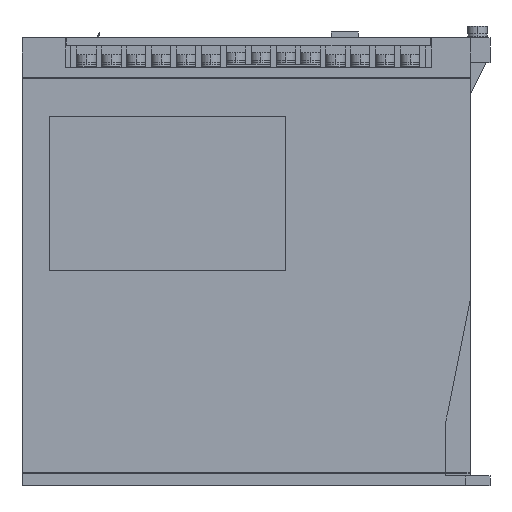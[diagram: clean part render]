
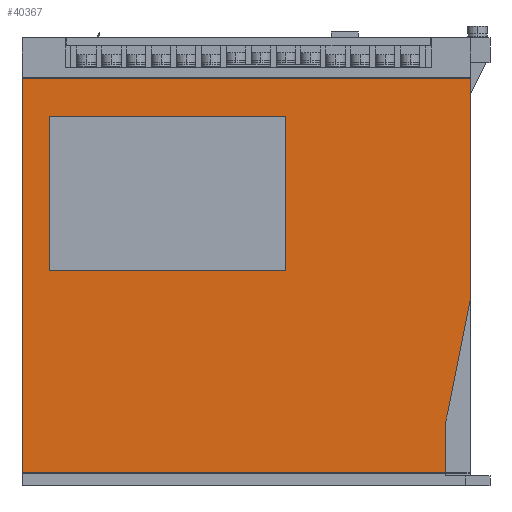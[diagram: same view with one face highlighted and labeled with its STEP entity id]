
A CAD part, left-side view. The second image highlights one B-rep face of the part: STEP entity #40367.
In plain terms, the highlighted planar face has unit normal (-1, 0, 0).
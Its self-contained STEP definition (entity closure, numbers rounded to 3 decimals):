
#7353 = CARTESIAN_POINT ( 'NONE',  ( -95., -175., 163.8 ) ) ;
#7354 = DIRECTION ( 'NONE',  ( 0., -1., 0. ) ) ;
#7355 = VECTOR ( 'NONE', #7354, 1000. ) ;
#7356 = CARTESIAN_POINT ( 'NONE',  ( -95., 5., 163.8 ) ) ;
#7357 = LINE ( 'NONE', #7356, #7355 ) ;
#7358 = CARTESIAN_POINT ( 'NONE',  ( -95., 5., 163.8 ) ) ;
#12354 = CARTESIAN_POINT ( 'NONE',  ( -95., -175., 74.4 ) ) ;
#12355 = DIRECTION ( 'NONE',  ( 0., 0., -1. ) ) ;
#12356 = VECTOR ( 'NONE', #12355, 1000. ) ;
#12357 = CARTESIAN_POINT ( 'NONE',  ( -95., -175., 369.913 ) ) ;
#12358 = LINE ( 'NONE', #12357, #12356 ) ;
#12392 = CARTESIAN_POINT ( 'NONE',  ( -95., 5., 369.913 ) ) ;
#12393 = AXIS2_PLACEMENT_3D ( 'NONE', #12392, #12455, #12454 ) ;
#12394 = PLANE ( 'NONE',  #12393 ) ;
#12395 = FACE_OUTER_BOUND ( 'NONE', #40352, .T. ) ;
#12396 = FACE_BOUND ( 'NONE', #40369, .T. ) ;
#12403 = DIRECTION ( 'NONE',  ( 0., -0.196, 0.981 ) ) ;
#12404 = VECTOR ( 'NONE', #12403, 1000. ) ;
#12405 = CARTESIAN_POINT ( 'NONE',  ( -95., -165., 24.4 ) ) ;
#12406 = LINE ( 'NONE', #12405, #12404 ) ;
#12407 = CARTESIAN_POINT ( 'NONE',  ( -95., -165., 24.4 ) ) ;
#12408 = DIRECTION ( 'NONE',  ( 0., 0., -1. ) ) ;
#12409 = VECTOR ( 'NONE', #12408, 1000. ) ;
#12410 = CARTESIAN_POINT ( 'NONE',  ( -95., -165., 24.4 ) ) ;
#12411 = LINE ( 'NONE', #12410, #12409 ) ;
#12412 = CARTESIAN_POINT ( 'NONE',  ( -95., -165., 5.2 ) ) ;
#12413 = CARTESIAN_POINT ( 'NONE',  ( -95., 5., 5.2 ) ) ;
#12414 = DIRECTION ( 'NONE',  ( 0., -1., 0. ) ) ;
#12415 = VECTOR ( 'NONE', #12414, 1000. ) ;
#12416 = CARTESIAN_POINT ( 'NONE',  ( -95., 5., 5.2 ) ) ;
#12417 = LINE ( 'NONE', #12416, #12415 ) ;
#12418 = DIRECTION ( 'NONE',  ( 0., 1., 0. ) ) ;
#12419 = VECTOR ( 'NONE', #12418, 1000. ) ;
#12420 = CARTESIAN_POINT ( 'NONE',  ( -95., -6., 148.5 ) ) ;
#12421 = LINE ( 'NONE', #12420, #12419 ) ;
#12438 = CARTESIAN_POINT ( 'NONE',  ( -95., -6., 148.5 ) ) ;
#12439 = DIRECTION ( 'NONE',  ( 0., 0., -1. ) ) ;
#12440 = VECTOR ( 'NONE', #12439, 1000. ) ;
#12441 = CARTESIAN_POINT ( 'NONE',  ( -95., -6., 86.5 ) ) ;
#12442 = LINE ( 'NONE', #12441, #12440 ) ;
#12443 = CARTESIAN_POINT ( 'NONE',  ( -95., -6., 86.5 ) ) ;
#12444 = DIRECTION ( 'NONE',  ( 0., -1., 0. ) ) ;
#12445 = VECTOR ( 'NONE', #12444, 1000. ) ;
#12446 = CARTESIAN_POINT ( 'NONE',  ( -95., -6., 86.5 ) ) ;
#12447 = LINE ( 'NONE', #12446, #12445 ) ;
#12448 = CARTESIAN_POINT ( 'NONE',  ( -95., -101., 148.5 ) ) ;
#12449 = CARTESIAN_POINT ( 'NONE',  ( -95., -101., 86.5 ) ) ;
#12450 = DIRECTION ( 'NONE',  ( 0., 0., 1. ) ) ;
#12451 = VECTOR ( 'NONE', #12450, 1000. ) ;
#12452 = CARTESIAN_POINT ( 'NONE',  ( -95., -101., 86.5 ) ) ;
#12453 = LINE ( 'NONE', #12452, #12451 ) ;
#12454 = DIRECTION ( 'NONE',  ( 0., 0., -1. ) ) ;
#12455 = DIRECTION ( 'NONE',  ( 1., 0., 0. ) ) ;
#12493 = DIRECTION ( 'NONE',  ( 0., 0., -1. ) ) ;
#12494 = VECTOR ( 'NONE', #12493, 1000. ) ;
#12495 = CARTESIAN_POINT ( 'NONE',  ( -95., 5., 369.913 ) ) ;
#12496 = LINE ( 'NONE', #12495, #12494 ) ;
#37459 = VERTEX_POINT ( 'NONE', #7358 ) ;
#37461 = EDGE_CURVE ( 'NONE', #37459, #37462, #7357, .T. ) ;
#37462 = VERTEX_POINT ( 'NONE', #7353 ) ;
#40311 = EDGE_CURVE ( 'NONE', #37462, #40312, #12358, .T. ) ;
#40312 = VERTEX_POINT ( 'NONE', #12354 ) ;
#40350 = ORIENTED_EDGE ( 'NONE', *, *, #40351, .F. ) ;
#40351 = EDGE_CURVE ( 'NONE', #40373, #40379, #12421, .T. ) ;
#40352 = EDGE_LOOP ( 'NONE', ( #40353, #40357, #40360, #40362, #40426, #40427 ) ) ;
#40353 = ORIENTED_EDGE ( 'NONE', *, *, #40354, .T. ) ;
#40354 = EDGE_CURVE ( 'NONE', #40355, #40356, #12417, .T. ) ;
#40355 = VERTEX_POINT ( 'NONE', #12413 ) ;
#40356 = VERTEX_POINT ( 'NONE', #12412 ) ;
#40357 = ORIENTED_EDGE ( 'NONE', *, *, #40358, .F. ) ;
#40358 = EDGE_CURVE ( 'NONE', #40359, #40356, #12411, .T. ) ;
#40359 = VERTEX_POINT ( 'NONE', #12407 ) ;
#40360 = ORIENTED_EDGE ( 'NONE', *, *, #40361, .T. ) ;
#40361 = EDGE_CURVE ( 'NONE', #40359, #40312, #12406, .T. ) ;
#40362 = ORIENTED_EDGE ( 'NONE', *, *, #40311, .F. ) ;
#40367 = ADVANCED_FACE ( 'NONE', ( #12396, #12395 ), #12394, .F. ) ;
#40369 = EDGE_LOOP ( 'NONE', ( #40370, #40374, #40377, #40350 ) ) ;
#40370 = ORIENTED_EDGE ( 'NONE', *, *, #40371, .F. ) ;
#40371 = EDGE_CURVE ( 'NONE', #40372, #40373, #12453, .T. ) ;
#40372 = VERTEX_POINT ( 'NONE', #12449 ) ;
#40373 = VERTEX_POINT ( 'NONE', #12448 ) ;
#40374 = ORIENTED_EDGE ( 'NONE', *, *, #40375, .F. ) ;
#40375 = EDGE_CURVE ( 'NONE', #40376, #40372, #12447, .T. ) ;
#40376 = VERTEX_POINT ( 'NONE', #12443 ) ;
#40377 = ORIENTED_EDGE ( 'NONE', *, *, #40378, .F. ) ;
#40378 = EDGE_CURVE ( 'NONE', #40379, #40376, #12442, .T. ) ;
#40379 = VERTEX_POINT ( 'NONE', #12438 ) ;
#40426 = ORIENTED_EDGE ( 'NONE', *, *, #37461, .F. ) ;
#40427 = ORIENTED_EDGE ( 'NONE', *, *, #40428, .T. ) ;
#40428 = EDGE_CURVE ( 'NONE', #37459, #40355, #12496, .T. ) ;
